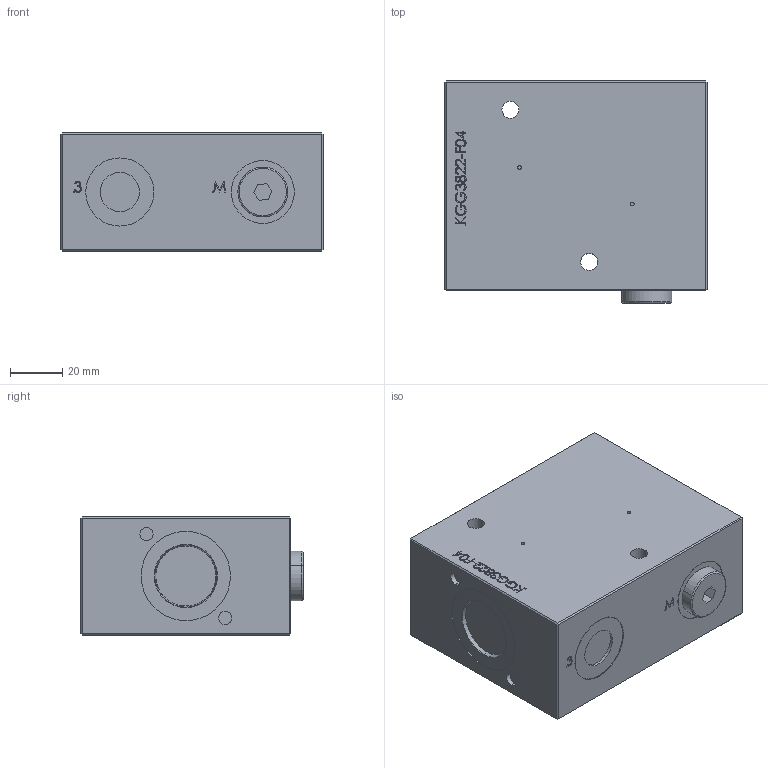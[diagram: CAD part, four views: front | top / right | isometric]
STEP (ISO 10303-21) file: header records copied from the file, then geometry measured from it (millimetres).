
FILE_DESCRIPTION (( 'STEP AP214' ), '1' );
FILE_NAME ('KGG3822-F04.STEP', '2016-11-28T07:15:14', ( '' ), ( '' ), 'SwSTEP 2.0', 'SolidWorks 2014', '' );
FILE_SCHEMA (( 'AUTOMOTIVE_DESIGN' ));
Length unit declared in the file: millimetre
Products named in the file (2): KGG3822-F04
Bounding box: 100 x 84.7 x 45 mm (x, y, z)
Volume: 355785.6 mm3; surface area: 35324.5 mm2
Topology: 2 solids, 3 shells, 308 faces, 761 edges, 498 vertices
Faces by surface type: plane 164, bspline 90, cylinder 48, torus 4, cone 2
Entity records: 17714 total; most frequent: CARTESIAN_POINT 7563, ORIENTED_EDGE 1522, DIRECTION 1129, EDGE_CURVE 761, VERTEX_POINT 498, VECTOR 473, LINE 473, EDGE_LOOP 355
